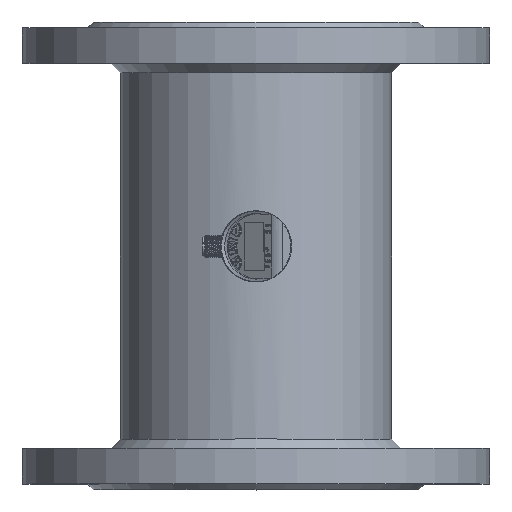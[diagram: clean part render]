
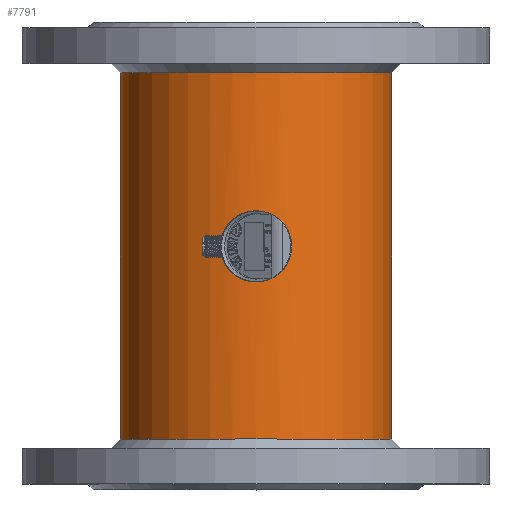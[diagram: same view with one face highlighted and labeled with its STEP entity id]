
A CAD part, top view. The second image highlights one B-rep face of the part: STEP entity #7791.
In plain terms, the highlighted cylindrical face has radius 72.5 mm (diameter 145 mm), a full revolution.
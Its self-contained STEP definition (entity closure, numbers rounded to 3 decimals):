
#6038=CYLINDRICAL_SURFACE('',#22944,72.5);
#6810=B_SPLINE_CURVE_WITH_KNOTS('',3,(#43307,#43308,#43309,#43310,#43311,
#43312,#43313,#43314,#43315,#43316),.UNSPECIFIED.,.F.,.F.,(4,2,2,2,4),(0.,
0.25,0.5,0.75,1.),.UNSPECIFIED.);
#6811=B_SPLINE_CURVE_WITH_KNOTS('',3,(#43317,#43318,#43319,#43320,#43321,
#43322,#43323,#43324,#43325,#43326),.UNSPECIFIED.,.F.,.F.,(4,2,2,2,4),(0.,
0.25,0.5,0.75,1.),.UNSPECIFIED.);
#7791=ADVANCED_FACE('',(#8664,#8665,#8666),#6038,.T.);
#8664=FACE_BOUND('',#9963,.T.);
#8665=FACE_BOUND('',#9964,.T.);
#8666=FACE_BOUND('',#9965,.T.);
#9963=EDGE_LOOP('',(#15286,#15287,#15288,#15289));
#9964=EDGE_LOOP('',(#15290));
#9965=EDGE_LOOP('',(#15291));
#10651=CIRCLE('',#22942,72.5);
#10652=CIRCLE('',#22943,72.5);
#15286=ORIENTED_EDGE('',*,*,#19293,.F.);
#15287=ORIENTED_EDGE('',*,*,#19297,.T.);
#15288=ORIENTED_EDGE('',*,*,#19295,.F.);
#15289=ORIENTED_EDGE('',*,*,#19298,.T.);
#15290=ORIENTED_EDGE('',*,*,#19299,.T.);
#15291=ORIENTED_EDGE('',*,*,#19300,.T.);
#16947=VERTEX_POINT('',#43287);
#16948=VERTEX_POINT('',#43288);
#16949=VERTEX_POINT('',#43290);
#16950=VERTEX_POINT('',#43301);
#16952=VERTEX_POINT('',#43328);
#16953=VERTEX_POINT('',#43330);
#19293=EDGE_CURVE('',#16948,#16949,#20315,.T.);
#19295=EDGE_CURVE('',#16950,#16947,#20316,.T.);
#19297=EDGE_CURVE('',#16948,#16947,#6810,.T.);
#19298=EDGE_CURVE('',#16950,#16949,#6811,.T.);
#19299=EDGE_CURVE('',#16952,#16952,#10651,.T.);
#19300=EDGE_CURVE('',#16953,#16953,#10652,.T.);
#20315=LINE('',#43289,#21475);
#20316=LINE('',#43302,#21476);
#21475=VECTOR('',#27065,1.);
#21476=VECTOR('',#27066,1.);
#22942=AXIS2_PLACEMENT_3D('',#43327,#27073,#27074);
#22943=AXIS2_PLACEMENT_3D('',#43329,#27075,#27076);
#22944=AXIS2_PLACEMENT_3D('',#43331,#27077,#27078);
#27065=DIRECTION('',(0.,-1.,0.));
#27066=DIRECTION('',(0.,1.,0.));
#27073=DIRECTION('',(0.,-1.,0.));
#27074=DIRECTION('',(0.,0.,1.));
#27075=DIRECTION('',(0.,1.,0.));
#27076=DIRECTION('',(0.,0.,-1.));
#27077=DIRECTION('',(0.,-1.,0.));
#27078=DIRECTION('',(0.,0.,-1.));
#43287=CARTESIAN_POINT('',(42.412,43.633,-97.224));
#43288=CARTESIAN_POINT('',(8.588,43.636,-97.224));
#43289=CARTESIAN_POINT('',(8.588,-879.758,-97.224));
#43290=CARTESIAN_POINT('',(8.588,29.165,-97.224));
#43301=CARTESIAN_POINT('',(42.412,29.164,-97.224));
#43302=CARTESIAN_POINT('',(42.412,-879.758,-97.224));
#43307=CARTESIAN_POINT('',(8.588,43.636,-97.224));
#43308=CARTESIAN_POINT('',(10.267,46.591,-96.822));
#43309=CARTESIAN_POINT('',(12.804,48.924,-96.282));
#43310=CARTESIAN_POINT('',(18.739,52.112,-95.478));
#43311=CARTESIAN_POINT('',(22.14,52.941,-95.224));
#43312=CARTESIAN_POINT('',(28.88,52.936,-95.225));
#43313=CARTESIAN_POINT('',(32.256,52.113,-95.478));
#43314=CARTESIAN_POINT('',(38.193,48.93,-96.281));
#43315=CARTESIAN_POINT('',(40.733,46.588,-96.822));
#43316=CARTESIAN_POINT('',(42.412,43.633,-97.224));
#43317=CARTESIAN_POINT('',(42.412,29.164,-97.224));
#43318=CARTESIAN_POINT('',(40.739,26.206,-96.823));
#43319=CARTESIAN_POINT('',(38.199,23.875,-96.282));
#43320=CARTESIAN_POINT('',(32.259,20.688,-95.478));
#43321=CARTESIAN_POINT('',(28.86,19.861,-95.224));
#43322=CARTESIAN_POINT('',(22.119,19.861,-95.225));
#43323=CARTESIAN_POINT('',(18.744,20.687,-95.478));
#43324=CARTESIAN_POINT('',(12.805,23.874,-96.282));
#43325=CARTESIAN_POINT('',(10.264,26.21,-96.822));
#43326=CARTESIAN_POINT('',(8.588,29.165,-97.224));
#43327=CARTESIAN_POINT('',(25.5,129.642,-167.724));
#43328=CARTESIAN_POINT('',(25.5,129.642,-95.224));
#43329=CARTESIAN_POINT('',(25.5,-66.358,-167.724));
#43330=CARTESIAN_POINT('',(25.5,-66.358,-240.224));
#43331=CARTESIAN_POINT('',(25.5,-879.758,-167.724));
